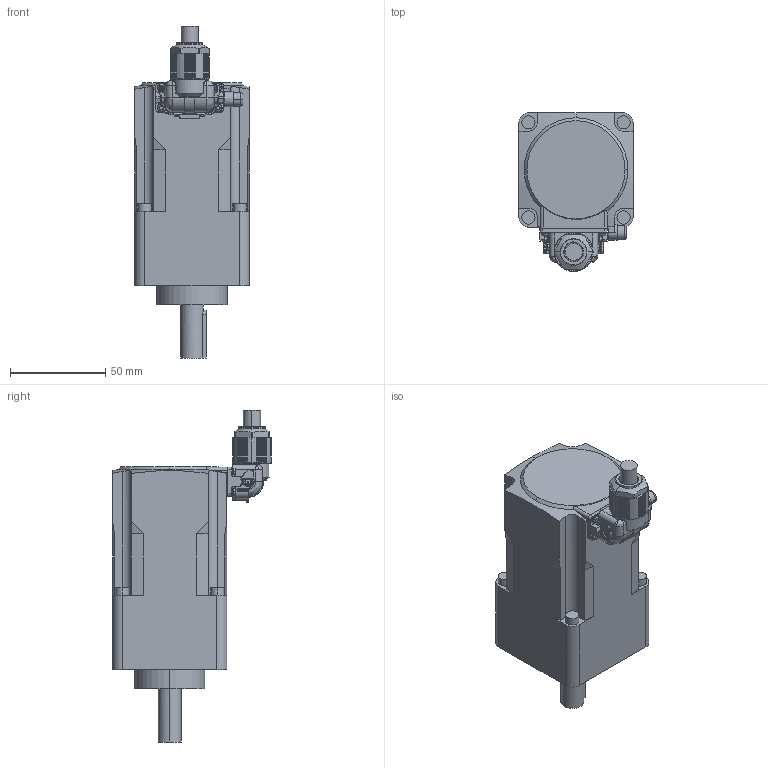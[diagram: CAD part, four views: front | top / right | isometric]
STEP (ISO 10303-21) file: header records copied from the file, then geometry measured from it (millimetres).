
FILE_DESCRIPTION (( 'STEP AP203' ), '1' );
FILE_NAME ('B1557_B.step', '2025-07-04T08:17:06', ( '' ), ( '' ), 'SwSTEP 2.0', 'SolidWorks 2023', '' );
FILE_SCHEMA (( 'CONFIG_CONTROL_DESIGN' ));
Length unit declared in the file: millimetre
Products named in the file (1): B1557_B
Bounding box: 60 x 83.4 x 174.3 mm (x, y, z)
Volume: 383394 mm3; surface area: 40212.2 mm2
Topology: 2 solids, 6 shells, 1083 faces, 2827 edges, 1748 vertices
Faces by surface type: plane 462, cylinder 406, bspline 148, cone 44, torus 21, sphere 2
Entity records: 36864 total; most frequent: CARTESIAN_POINT 11778, ORIENTED_EDGE 5594, DIRECTION 4803, EDGE_CURVE 2797, VERTEX_POINT 1748, AXIS2_PLACEMENT_3D 1660, LINE 1483, VECTOR 1483
